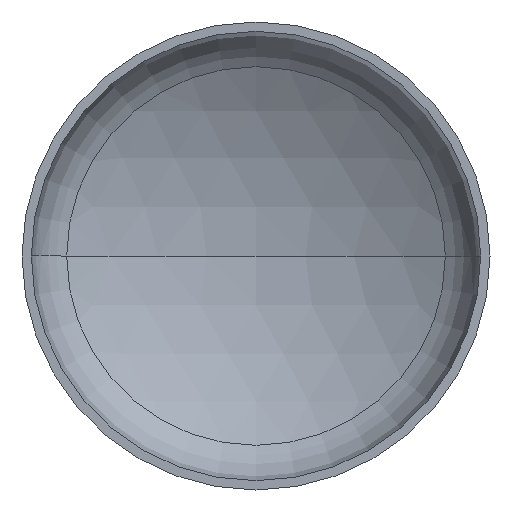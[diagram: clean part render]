
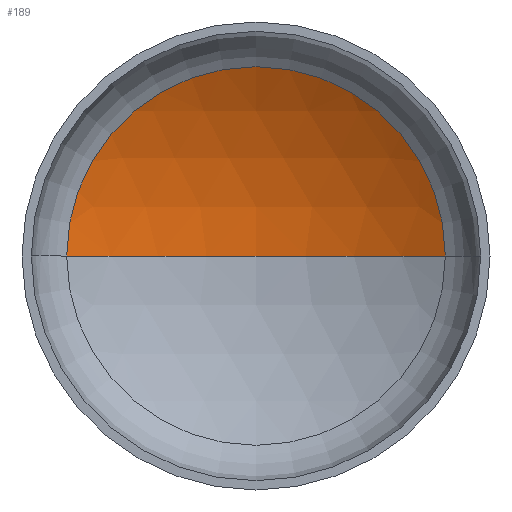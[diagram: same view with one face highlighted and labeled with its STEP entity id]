
A CAD part, front view. The second image highlights one B-rep face of the part: STEP entity #189.
In plain terms, the highlighted spherical face has radius 1520 mm.
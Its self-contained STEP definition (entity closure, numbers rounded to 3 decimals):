
#5 = DIRECTION ( 'NONE',  ( 0., 0., -1. ) ) ;
#6 = AXIS2_PLACEMENT_3D ( 'NONE', #188, #281, #112 ) ;
#7 = AXIS2_PLACEMENT_3D ( 'NONE', #168, #216, #330 ) ;
#18 = EDGE_LOOP ( 'NONE', ( #109, #20, #105 ) ) ;
#20 = ORIENTED_EDGE ( 'NONE', *, *, #360, .T. ) ;
#48 = AXIS2_PLACEMENT_3D ( 'NONE', #372, #5, #282 ) ;
#58 = FACE_OUTER_BOUND ( 'NONE', #18, .T. ) ;
#62 = AXIS2_PLACEMENT_3D ( 'NONE', #199, #356, #218 ) ;
#65 = VERTEX_POINT ( 'NONE', #289 ) ;
#97 = VERTEX_POINT ( 'NONE', #322 ) ;
#102 = VERTEX_POINT ( 'NONE', #301 ) ;
#105 = ORIENTED_EDGE ( 'NONE', *, *, #132, .T. ) ;
#109 = ORIENTED_EDGE ( 'NONE', *, *, #362, .F. ) ;
#112 = DIRECTION ( 'NONE',  ( 1., 0., 0. ) ) ;
#132 = EDGE_CURVE ( 'NONE', #97, #65, #311, .T. ) ;
#168 = CARTESIAN_POINT ( 'NONE',  ( 0., -941.139, 0. ) ) ;
#188 = CARTESIAN_POINT ( 'NONE',  ( 0., -941.139, 0. ) ) ;
#189 = ADVANCED_FACE ( 'NONE', ( #58 ), #300, .F. ) ;
#199 = CARTESIAN_POINT ( 'NONE',  ( 0., 370.187, 0. ) ) ;
#216 = DIRECTION ( 'NONE',  ( 0., 0., -1. ) ) ;
#218 = DIRECTION ( 'NONE',  ( 1., 0., 0. ) ) ;
#281 = DIRECTION ( 'NONE',  ( 0., 0., 1. ) ) ;
#282 = DIRECTION ( 'NONE',  ( -1., 0., 0. ) ) ;
#289 = CARTESIAN_POINT ( 'NONE',  ( -768.65, 370.187, 0. ) ) ;
#300 = SPHERICAL_SURFACE ( 'NONE', #48, 1520. ) ;
#301 = CARTESIAN_POINT ( 'NONE',  ( 0., 578.861, 0. ) ) ;
#311 = CIRCLE ( 'NONE', #62, 768.65 ) ;
#322 = CARTESIAN_POINT ( 'NONE',  ( 768.65, 370.187, 0. ) ) ;
#328 = CIRCLE ( 'NONE', #6, 1520. ) ;
#330 = DIRECTION ( 'NONE',  ( -1., 0., 0. ) ) ;
#356 = DIRECTION ( 'NONE',  ( 0., -1., 0. ) ) ;
#360 = EDGE_CURVE ( 'NONE', #102, #97, #390, .T. ) ;
#362 = EDGE_CURVE ( 'NONE', #102, #65, #328, .T. ) ;
#372 = CARTESIAN_POINT ( 'NONE',  ( 0., -941.139, 0. ) ) ;
#390 = CIRCLE ( 'NONE', #7, 1520. ) ;
